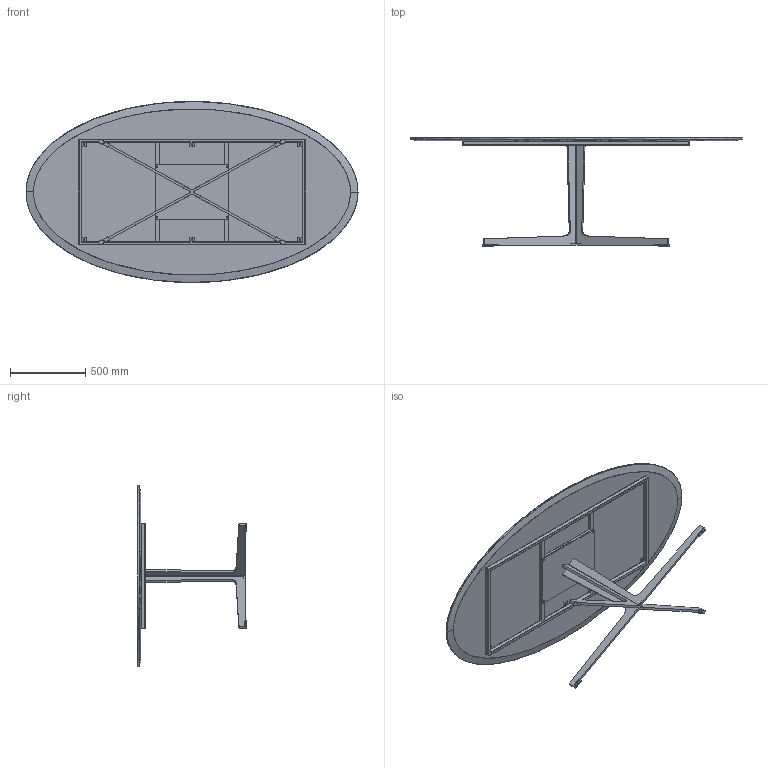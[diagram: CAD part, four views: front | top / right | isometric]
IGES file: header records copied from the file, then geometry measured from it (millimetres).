
Start section: SolidWorks IGES file using analytic representation for surfaces
Global section: file name: W:\design\CKR\spilt\IGS\OV220.IGS; native system: SolidWorks 2010; preprocessor: SolidWorks 2010; author: PC20; date: 150212.190247; units: millimetre
Bounding box: 2200 x 717 x 1200 mm (x, y, z)
Surface area: 6460760.8 mm2 (no closed solid volume)
Topology: 0 solids, 0 shells, 448 faces, 9479 edges, 11809 vertices
Faces by surface type: bspline 276, revolution 172
